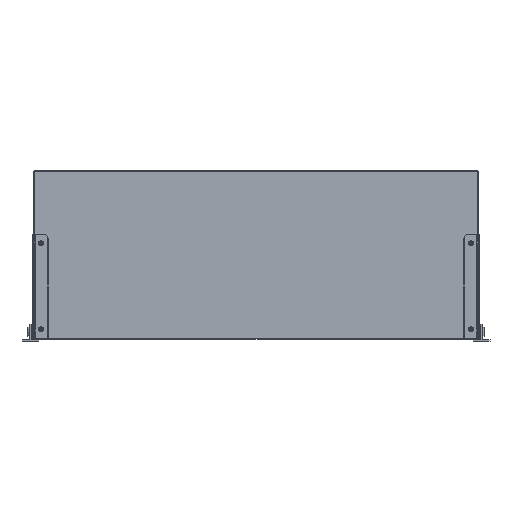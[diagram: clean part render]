
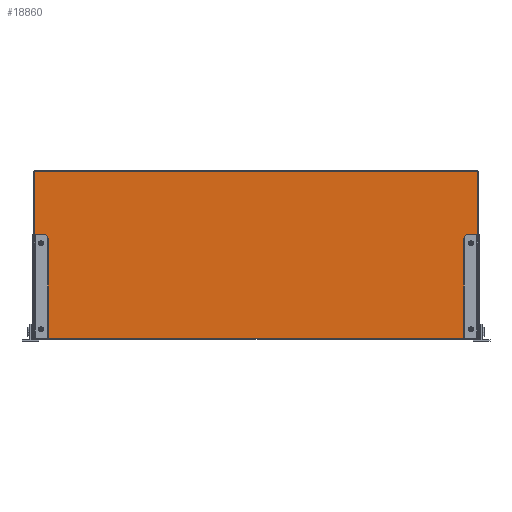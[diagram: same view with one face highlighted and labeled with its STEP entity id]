
A CAD part, front view. The second image highlights one B-rep face of the part: STEP entity #18860.
In plain terms, the highlighted planar face has unit normal (0, -1, 0).
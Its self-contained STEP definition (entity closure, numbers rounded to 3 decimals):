
#62 = AXIS2_PLACEMENT_3D ( 'NONE', #19166, #6532, #26193 ) ;
#581 = CIRCLE ( 'NONE', #31979, 2.5 ) ;
#714 = AXIS2_PLACEMENT_3D ( 'NONE', #18081, #15952, #22978 ) ;
#915 = ORIENTED_EDGE ( 'NONE', *, *, #1157, .T. ) ;
#964 = FACE_BOUND ( 'NONE', #16355, .T. ) ;
#995 = AXIS2_PLACEMENT_3D ( 'NONE', #21769, #26834, #14247 ) ;
#1049 = CARTESIAN_POINT ( 'NONE',  ( -395., 0., 148.5 ) ) ;
#1157 = EDGE_CURVE ( 'NONE', #27638, #10766, #10932, .T. ) ;
#1582 = VECTOR ( 'NONE', #13692, 1000. ) ;
#2261 = VECTOR ( 'NONE', #21231, 1000. ) ;
#2278 = ORIENTED_EDGE ( 'NONE', *, *, #23979, .F. ) ;
#2794 = CIRCLE ( 'NONE', #714, 2.5 ) ;
#3413 = VERTEX_POINT ( 'NONE', #5895 ) ;
#5237 = VERTEX_POINT ( 'NONE', #15357 ) ;
#5450 = DIRECTION ( 'NONE',  ( 0., -1., 0. ) ) ;
#5562 = LINE ( 'NONE', #26452, #26432 ) ;
#5895 = CARTESIAN_POINT ( 'NONE',  ( -382.5, 0., -129.3 ) ) ;
#6181 = CARTESIAN_POINT ( 'NONE',  ( 393.5, 0., 150. ) ) ;
#6532 = DIRECTION ( 'NONE',  ( 0., -1., 0. ) ) ;
#6597 = VERTEX_POINT ( 'NONE', #17876 ) ;
#6701 = FACE_BOUND ( 'NONE', #18163, .T. ) ;
#6737 = AXIS2_PLACEMENT_3D ( 'NONE', #20687, #5450, #22662 ) ;
#7355 = AXIS2_PLACEMENT_3D ( 'NONE', #20928, #16045, #11271 ) ;
#7636 = CIRCLE ( 'NONE', #23354, 2.5 ) ;
#7757 = EDGE_CURVE ( 'NONE', #15744, #3413, #7636, .T. ) ;
#7835 = CARTESIAN_POINT ( 'NONE',  ( 393.5, 0., -148.5 ) ) ;
#8442 = EDGE_CURVE ( 'NONE', #10766, #14342, #5562, .T. ) ;
#8619 = DIRECTION ( 'NONE',  ( 0., 0., -1. ) ) ;
#8635 = CARTESIAN_POINT ( 'NONE',  ( -393.5, 0., -149. ) ) ;
#8772 = ORIENTED_EDGE ( 'NONE', *, *, #11106, .F. ) ;
#9777 = EDGE_LOOP ( 'NONE', ( #31736, #22035 ) ) ;
#10004 = EDGE_CURVE ( 'NONE', #14342, #6597, #11098, .T. ) ;
#10104 = CARTESIAN_POINT ( 'NONE',  ( -393.5, 0., 148.5 ) ) ;
#10766 = VERTEX_POINT ( 'NONE', #23334 ) ;
#10932 = LINE ( 'NONE', #8635, #2261 ) ;
#10942 = DIRECTION ( 'NONE',  ( 0., 0., 1. ) ) ;
#11098 = LINE ( 'NONE', #6181, #24954 ) ;
#11106 = EDGE_CURVE ( 'NONE', #24311, #14925, #2794, .T. ) ;
#11271 = DIRECTION ( 'NONE',  ( 0., 0., -1. ) ) ;
#11329 = ORIENTED_EDGE ( 'NONE', *, *, #18679, .F. ) ;
#11670 = VERTEX_POINT ( 'NONE', #11734 ) ;
#11734 = CARTESIAN_POINT ( 'NONE',  ( 382.5, 0., -134.3 ) ) ;
#11916 = CARTESIAN_POINT ( 'NONE',  ( -382.5, 0., -134.3 ) ) ;
#12287 = CIRCLE ( 'NONE', #13312, 2.5 ) ;
#13312 = AXIS2_PLACEMENT_3D ( 'NONE', #28253, #31040, #8619 ) ;
#13692 = DIRECTION ( 'NONE',  ( -1., 0., 0. ) ) ;
#13765 = FACE_OUTER_BOUND ( 'NONE', #15122, .T. ) ;
#13945 = ORIENTED_EDGE ( 'NONE', *, *, #19705, .T. ) ;
#13987 = AXIS2_PLACEMENT_3D ( 'NONE', #24332, #19614, #26951 ) ;
#14009 = CARTESIAN_POINT ( 'NONE',  ( 382.5, 0., 21.2 ) ) ;
#14247 = DIRECTION ( 'NONE',  ( 0., 0., -1. ) ) ;
#14283 = CARTESIAN_POINT ( 'NONE',  ( 382.5, 0., 23.7 ) ) ;
#14342 = VERTEX_POINT ( 'NONE', #7835 ) ;
#14472 = DIRECTION ( 'NONE',  ( 0., 0., -1. ) ) ;
#14568 = EDGE_CURVE ( 'NONE', #3413, #15744, #28089, .T. ) ;
#14925 = VERTEX_POINT ( 'NONE', #16967 ) ;
#15122 = EDGE_LOOP ( 'NONE', ( #915, #16703, #27819, #13945 ) ) ;
#15357 = CARTESIAN_POINT ( 'NONE',  ( 382.5, 0., -129.3 ) ) ;
#15744 = VERTEX_POINT ( 'NONE', #11916 ) ;
#15952 = DIRECTION ( 'NONE',  ( 0., -1., 0. ) ) ;
#16045 = DIRECTION ( 'NONE',  ( 0., 1., 0. ) ) ;
#16120 = EDGE_CURVE ( 'NONE', #17189, #23081, #12287, .T. ) ;
#16355 = EDGE_LOOP ( 'NONE', ( #11329, #8772 ) ) ;
#16401 = FACE_BOUND ( 'NONE', #27739, .T. ) ;
#16703 = ORIENTED_EDGE ( 'NONE', *, *, #8442, .T. ) ;
#16792 = CARTESIAN_POINT ( 'NONE',  ( -382.5, 0., -131.8 ) ) ;
#16881 = CIRCLE ( 'NONE', #7355, 2.5 ) ;
#16967 = CARTESIAN_POINT ( 'NONE',  ( 382.5, 0., 18.7 ) ) ;
#17189 = VERTEX_POINT ( 'NONE', #27820 ) ;
#17876 = CARTESIAN_POINT ( 'NONE',  ( 393.5, 0., 148.5 ) ) ;
#18081 = CARTESIAN_POINT ( 'NONE',  ( 382.5, 0., 21.2 ) ) ;
#18163 = EDGE_LOOP ( 'NONE', ( #29039, #25110 ) ) ;
#18679 = EDGE_CURVE ( 'NONE', #14925, #24311, #581, .T. ) ;
#18790 = CIRCLE ( 'NONE', #6737, 2.5 ) ;
#18860 = ADVANCED_FACE ( 'NONE', ( #13765, #6701, #23748, #964, #16401 ), #26348, .T. ) ;
#19166 = CARTESIAN_POINT ( 'NONE',  ( 0., 0., 0. ) ) ;
#19365 = EDGE_CURVE ( 'NONE', #23081, #17189, #16881, .T. ) ;
#19567 = DIRECTION ( 'NONE',  ( 0., -1., 0. ) ) ;
#19614 = DIRECTION ( 'NONE',  ( 0., 1., 0. ) ) ;
#19705 = EDGE_CURVE ( 'NONE', #6597, #27638, #23515, .T. ) ;
#20687 = CARTESIAN_POINT ( 'NONE',  ( 382.5, 0., -131.8 ) ) ;
#20928 = CARTESIAN_POINT ( 'NONE',  ( -382.5, 0., 21.2 ) ) ;
#21231 = DIRECTION ( 'NONE',  ( 0., 0., -1. ) ) ;
#21769 = CARTESIAN_POINT ( 'NONE',  ( 382.5, 0., -131.8 ) ) ;
#22035 = ORIENTED_EDGE ( 'NONE', *, *, #14568, .T. ) ;
#22662 = DIRECTION ( 'NONE',  ( 0., 0., -1. ) ) ;
#22978 = DIRECTION ( 'NONE',  ( 0., 0., -1. ) ) ;
#23081 = VERTEX_POINT ( 'NONE', #24740 ) ;
#23334 = CARTESIAN_POINT ( 'NONE',  ( -393.5, 0., -148.5 ) ) ;
#23354 = AXIS2_PLACEMENT_3D ( 'NONE', #16792, #24120, #14472 ) ;
#23515 = LINE ( 'NONE', #1049, #1582 ) ;
#23748 = FACE_BOUND ( 'NONE', #9777, .T. ) ;
#23979 = EDGE_CURVE ( 'NONE', #5237, #11670, #18790, .T. ) ;
#24120 = DIRECTION ( 'NONE',  ( 0., 1., 0. ) ) ;
#24311 = VERTEX_POINT ( 'NONE', #14283 ) ;
#24332 = CARTESIAN_POINT ( 'NONE',  ( -382.5, 0., -131.8 ) ) ;
#24673 = EDGE_CURVE ( 'NONE', #11670, #5237, #26120, .T. ) ;
#24740 = CARTESIAN_POINT ( 'NONE',  ( -382.5, 0., 18.7 ) ) ;
#24954 = VECTOR ( 'NONE', #10942, 1000. ) ;
#25110 = ORIENTED_EDGE ( 'NONE', *, *, #16120, .T. ) ;
#26120 = CIRCLE ( 'NONE', #995, 2.5 ) ;
#26193 = DIRECTION ( 'NONE',  ( 0., 0., -1. ) ) ;
#26348 = PLANE ( 'NONE',  #62 ) ;
#26432 = VECTOR ( 'NONE', #27996, 1000. ) ;
#26452 = CARTESIAN_POINT ( 'NONE',  ( 394., 0., -148.5 ) ) ;
#26834 = DIRECTION ( 'NONE',  ( 0., -1., 0. ) ) ;
#26951 = DIRECTION ( 'NONE',  ( 0., 0., -1. ) ) ;
#27638 = VERTEX_POINT ( 'NONE', #10104 ) ;
#27739 = EDGE_LOOP ( 'NONE', ( #32229, #2278 ) ) ;
#27819 = ORIENTED_EDGE ( 'NONE', *, *, #10004, .T. ) ;
#27820 = CARTESIAN_POINT ( 'NONE',  ( -382.5, 0., 23.7 ) ) ;
#27996 = DIRECTION ( 'NONE',  ( 1., 0., 0. ) ) ;
#28089 = CIRCLE ( 'NONE', #13987, 2.5 ) ;
#28253 = CARTESIAN_POINT ( 'NONE',  ( -382.5, 0., 21.2 ) ) ;
#29039 = ORIENTED_EDGE ( 'NONE', *, *, #19365, .T. ) ;
#29534 = DIRECTION ( 'NONE',  ( 0., 0., -1. ) ) ;
#31040 = DIRECTION ( 'NONE',  ( 0., 1., 0. ) ) ;
#31736 = ORIENTED_EDGE ( 'NONE', *, *, #7757, .T. ) ;
#31979 = AXIS2_PLACEMENT_3D ( 'NONE', #14009, #19567, #29534 ) ;
#32229 = ORIENTED_EDGE ( 'NONE', *, *, #24673, .F. ) ;
